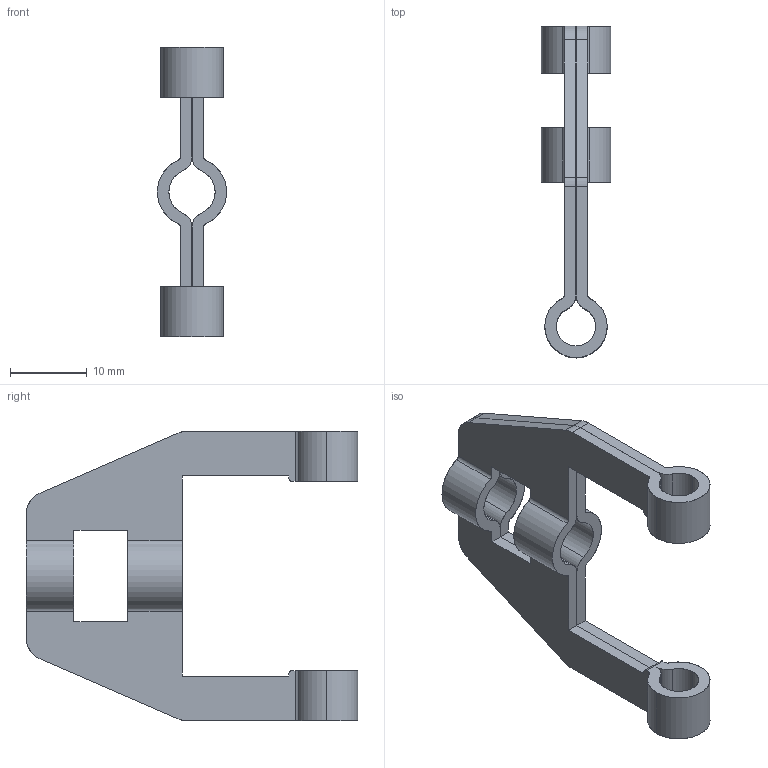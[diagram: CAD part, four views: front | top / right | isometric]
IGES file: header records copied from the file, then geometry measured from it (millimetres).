
Start section: SolidWorks IGES FILE using analytic representation for surfaces
Global section: file name: C:\Documents and Settings\lecoutey\Bureau\GR 88\55.060.10.IGS; native system: SolidWorks 2004 by SolidWorks Corporation; preprocessor: Version 5.3; author: lecoutey; date: 050405.090759; units: millimetre
Bounding box: 9 x 43.1 x 37.6 mm (x, y, z)
Surface area: 4059 mm2 (no closed solid volume)
Topology: 0 solids, 0 shells, 92 faces, 1248 edges, 1248 vertices
Faces by surface type: revolution 56, bspline 36
